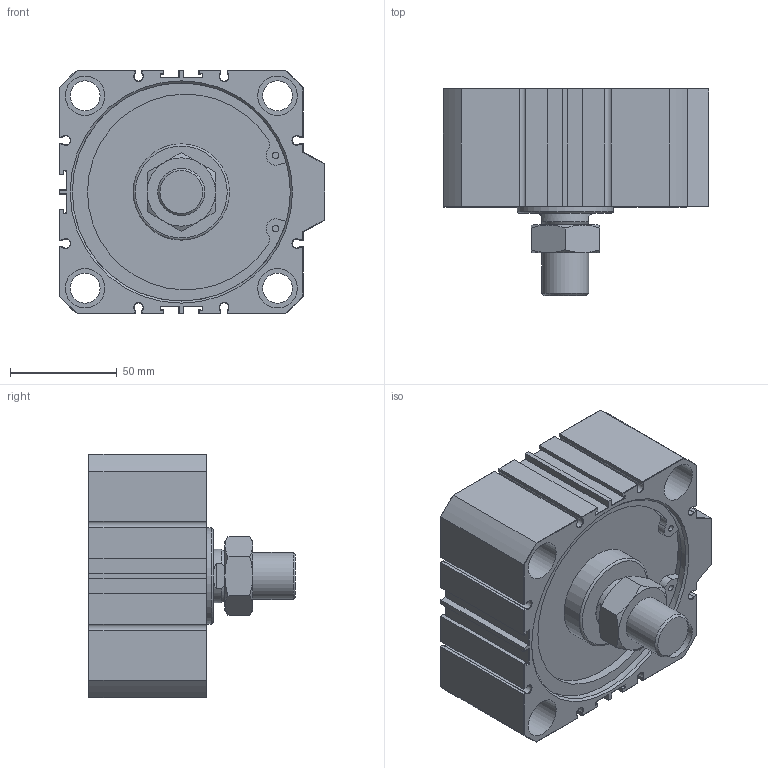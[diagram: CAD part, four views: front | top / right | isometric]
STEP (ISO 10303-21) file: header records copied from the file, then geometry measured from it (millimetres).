
FILE_DESCRIPTION(/* description */ (''),/* implementation_level */ '2;1');
FILE_NAME(/* name */ 'AJC-SD100X10W',/* time_stamp */ '2019-06-18T15:58:16+08:00',/* author */ ('JEFF HUANG'),/* organization */ ('TAIWAN AMAC CLAMP INDUSTRIAL CO., LTD.'),/* preprocessor_version */ 'ST-DEVELOPER v16.7',/* originating_system */ 'DEX',/* authorisation */ $);
FILE_SCHEMA (('AUTOMOTIVE_DESIGN {1 0 10303 214 3 1 1}'));
Length unit declared in the file: millimetre
Products named in the file (1): AJC-SD100X10W
Bounding box: 124 x 96.8 x 114 mm (x, y, z)
Volume: 598833.1 mm3; surface area: 80856.6 mm2
Topology: 1 solids, 1 shells, 387 faces, 877 edges, 481 vertices
Faces by surface type: plane 245, cone 75, cylinder 65, torus 2
Full cylindrical faces by diameter (mm): 3 x4, 14 x4, 15.806 x2, 18.5 x8, 22 x1, 45 x1, 55 x1, 102 x2
Entity records: 12821 total; most frequent: CARTESIAN_POINT 1818, DIRECTION 1724, ORIENTED_EDGE 1622, EDGE_CURVE 811, LINE 586, VECTOR 586, AXIS2_PLACEMENT_3D 569, VERTEX_POINT 477
